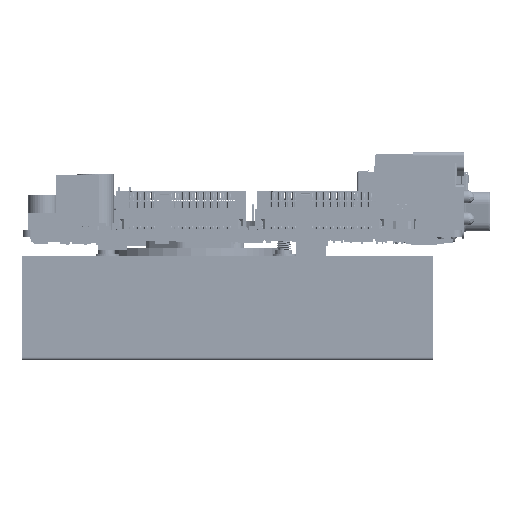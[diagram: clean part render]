
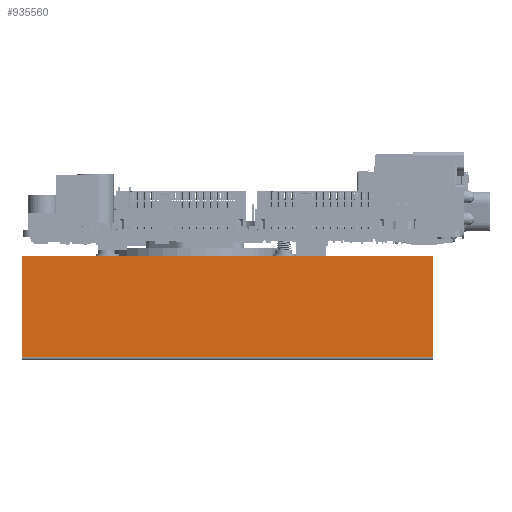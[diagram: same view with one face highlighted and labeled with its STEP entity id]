
A CAD part, left-side view. The second image highlights one B-rep face of the part: STEP entity #935560.
In plain terms, the highlighted planar face has unit normal (-1, 0, 0) as drawn and (1, 0, 0) by its records, which use the part's own axes.
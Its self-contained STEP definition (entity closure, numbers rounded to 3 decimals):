
#861331=DIRECTION('',(0.,1.,0.));
#861332=VECTOR('',#861331,23.4);
#861333=CARTESIAN_POINT('',(95.,3.,-57.5));
#861334=LINE('',#861333,#861332);
#874635=DIRECTION('',(0.,1.,0.));
#874636=VECTOR('',#874635,23.4);
#874637=CARTESIAN_POINT('',(95.,3.,37.5));
#874638=LINE('',#874637,#874636);
#889843=DIRECTION('',(0.,0.,1.));
#889844=VECTOR('',#889843,95.);
#889845=CARTESIAN_POINT('',(95.,26.4,-57.5));
#889846=LINE('',#889845,#889844);
#889847=DIRECTION('',(0.,0.,1.));
#889848=VECTOR('',#889847,95.);
#889849=CARTESIAN_POINT('',(95.,3.,-57.5));
#889850=LINE('',#889849,#889848);
#895512=CARTESIAN_POINT('',(95.,26.4,37.5));
#895513=VERTEX_POINT('',#895512);
#895515=CARTESIAN_POINT('',(95.,3.,37.5));
#895517=VERTEX_POINT('',#895515);
#898465=CARTESIAN_POINT('',(95.,26.4,-57.5));
#898466=VERTEX_POINT('',#898465);
#898468=CARTESIAN_POINT('',(95.,3.,-57.5));
#898470=VERTEX_POINT('',#898468);
#935549=CARTESIAN_POINT('',(95.,0.,-47.5));
#935550=DIRECTION('',(1.,0.,0.));
#935551=DIRECTION('',(0.,1.,0.));
#935552=AXIS2_PLACEMENT_3D('',#935549,#935550,#935551);
#935553=PLANE('',#935552);
#935554=ORIENTED_EDGE('',*,*,#901500,.T.);
#935555=ORIENTED_EDGE('',*,*,#904538,.T.);
#935556=ORIENTED_EDGE('',*,*,#935544,.F.);
#935557=ORIENTED_EDGE('',*,*,#898534,.F.);
#935558=EDGE_LOOP('',(#935554,#935555,#935556,#935557));
#935559=FACE_OUTER_BOUND('',#935558,.F.);
#935560=ADVANCED_FACE('',(#935559),#935553,.T.);
#898534=EDGE_CURVE('',#898470,#898466,#861334,.T.);
#901500=EDGE_CURVE('',#898470,#895517,#889850,.T.);
#904538=EDGE_CURVE('',#895517,#895513,#874638,.T.);
#935544=EDGE_CURVE('',#898466,#895513,#889846,.T.);
